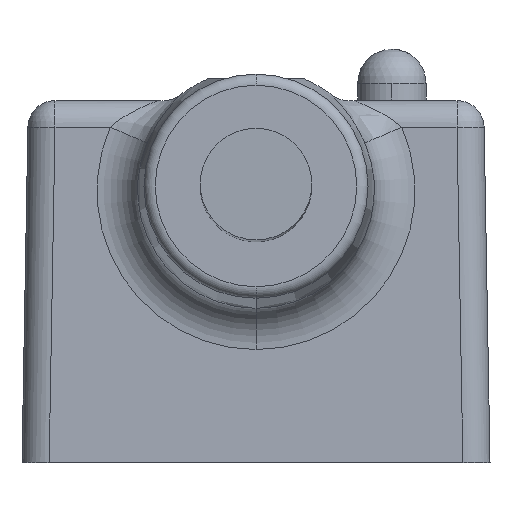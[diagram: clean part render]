
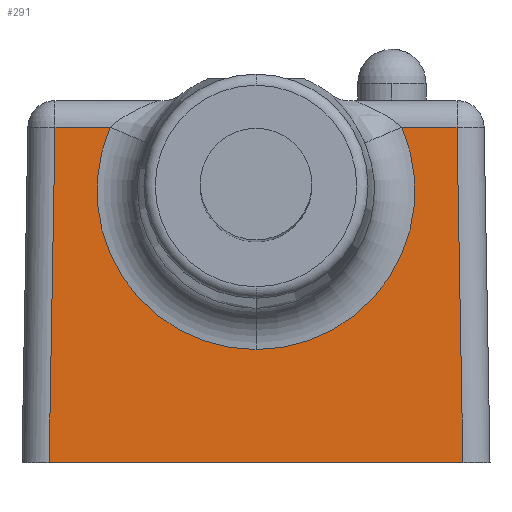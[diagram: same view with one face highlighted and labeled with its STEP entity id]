
A CAD part, top view. The second image highlights one B-rep face of the part: STEP entity #291.
In plain terms, the highlighted planar face has unit normal (0, 0.018, 1).
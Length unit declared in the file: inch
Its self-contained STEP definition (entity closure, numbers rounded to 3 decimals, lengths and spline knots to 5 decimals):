
#228 = VERTEX_POINT ( 'NONE', #3793 ) ;
#281 = EDGE_CURVE ( 'NONE', #364, #362, #3870, .T. ) ;
#284 = ORIENTED_EDGE ( 'NONE', *, *, #285, .T. ) ;
#285 = EDGE_CURVE ( 'NONE', #362, #356, #3918, .T. ) ;
#291 = ADVANCED_FACE ( 'NONE', ( #3866 ), #3919, .T. ) ;
#292 = ORIENTED_EDGE ( 'NONE', *, *, #293, .T. ) ;
#293 = EDGE_CURVE ( 'NONE', #228, #8942, #3895, .T. ) ;
#303 = EDGE_LOOP ( 'NONE', ( #292, #354, #358, #367, #366, #284, #344 ) ) ;
#342 = EDGE_CURVE ( 'NONE', #356, #228, #4039, .T. ) ;
#344 = ORIENTED_EDGE ( 'NONE', *, *, #342, .T. ) ;
#354 = ORIENTED_EDGE ( 'NONE', *, *, #8945, .T. ) ;
#355 = VERTEX_POINT ( 'NONE', #4012 ) ;
#356 = VERTEX_POINT ( 'NONE', #4082 ) ;
#358 = ORIENTED_EDGE ( 'NONE', *, *, #361, .T. ) ;
#359 = EDGE_CURVE ( 'NONE', #355, #364, #4066, .T. ) ;
#361 = EDGE_CURVE ( 'NONE', #8982, #355, #4081, .T. ) ;
#362 = VERTEX_POINT ( 'NONE', #4074 ) ;
#364 = VERTEX_POINT ( 'NONE', #4073 ) ;
#366 = ORIENTED_EDGE ( 'NONE', *, *, #281, .T. ) ;
#367 = ORIENTED_EDGE ( 'NONE', *, *, #359, .T. ) ;
#3793 = CARTESIAN_POINT ( 'NONE',  ( 1.00106, 0.77059, -0.01345 ) ) ;
#3862 = DIRECTION ( 'NONE',  ( 0., 0.017, 1. ) ) ;
#3863 = CARTESIAN_POINT ( 'NONE',  ( 0., 0., 0. ) ) ;
#3864 = AXIS2_PLACEMENT_3D ( 'NONE', #3863, #3862, #3955 ) ;
#3866 = FACE_OUTER_BOUND ( 'NONE', #303, .T. ) ;
#3867 = DIRECTION ( 'NONE',  ( -0.017, -1., 0.017 ) ) ;
#3868 = VECTOR ( 'NONE', #3867, 39.37008 ) ;
#3869 = CARTESIAN_POINT ( 'NONE',  ( 0.06247, -0.00109, 0.00002 ) ) ;
#3870 = LINE ( 'NONE', #3869, #3868 ) ;
#3894 = CARTESIAN_POINT ( 'NONE',  ( 0., 0.77059, -0.01345 ) ) ;
#3895 = LINE ( 'NONE', #3894, #3949 ) ;
#3915 = DIRECTION ( 'NONE',  ( 1., 0., 0. ) ) ;
#3916 = VECTOR ( 'NONE', #3915, 39.37008 ) ;
#3917 = CARTESIAN_POINT ( 'NONE',  ( 0., 0., 0. ) ) ;
#3918 = LINE ( 'NONE', #3917, #3916 ) ;
#3919 = PLANE ( 'NONE',  #3864 ) ;
#3948 = DIRECTION ( 'NONE',  ( -1., 0., 0. ) ) ;
#3949 = VECTOR ( 'NONE', #3948, 39.37008 ) ;
#3955 = DIRECTION ( 'NONE',  ( 0., -1., 0.017 ) ) ;
#4012 = CARTESIAN_POINT ( 'NONE',  ( 0.20286, 0.77059, -0.01345 ) ) ;
#4016 = DIRECTION ( 'NONE',  ( -0.017, 1., -0.017 ) ) ;
#4024 = VECTOR ( 'NONE', #4016, 39.37008 ) ;
#4025 = CARTESIAN_POINT ( 'NONE',  ( 1.0142, 0.0177, -0.00031 ) ) ;
#4026 = AXIS2_PLACEMENT_3D ( 'NONE', #4072, #4071, #4070 ) ;
#4039 = LINE ( 'NONE', #4025, #4024 ) ;
#4066 = LINE ( 'NONE', #4078, #4077 ) ;
#4070 = DIRECTION ( 'NONE',  ( 0., -1., 0.017 ) ) ;
#4071 = DIRECTION ( 'NONE',  ( 0., -0.017, -1. ) ) ;
#4072 = CARTESIAN_POINT ( 'NONE',  ( 0.5385, 0.6249, -0.01091 ) ) ;
#4073 = CARTESIAN_POINT ( 'NONE',  ( 0.07594, 0.77059, -0.01345 ) ) ;
#4074 = CARTESIAN_POINT ( 'NONE',  ( 0.06249, 0., 0. ) ) ;
#4076 = DIRECTION ( 'NONE',  ( -1., 0., 0. ) ) ;
#4077 = VECTOR ( 'NONE', #4076, 39.37008 ) ;
#4078 = CARTESIAN_POINT ( 'NONE',  ( 0., 0.77059, -0.01345 ) ) ;
#4081 = CIRCLE ( 'NONE', #4026, 0.36591 ) ;
#4082 = CARTESIAN_POINT ( 'NONE',  ( 1.01451, 0., 0. ) ) ;
#8942 = VERTEX_POINT ( 'NONE', #14917 ) ;
#8945 = EDGE_CURVE ( 'NONE', #8942, #8982, #14879, .T. ) ;
#8982 = VERTEX_POINT ( 'NONE', #14944 ) ;
#14879 = CIRCLE ( 'NONE', #14958, 0.36591 ) ;
#14908 = CARTESIAN_POINT ( 'NONE',  ( 0.5385, 0.6249, -0.01091 ) ) ;
#14917 = CARTESIAN_POINT ( 'NONE',  ( 0.87414, 0.77059, -0.01345 ) ) ;
#14944 = CARTESIAN_POINT ( 'NONE',  ( 0.5385, 0.25905, -0.00452 ) ) ;
#14953 = DIRECTION ( 'NONE',  ( 0., -1., 0.017 ) ) ;
#14954 = DIRECTION ( 'NONE',  ( 0., -0.017, -1. ) ) ;
#14958 = AXIS2_PLACEMENT_3D ( 'NONE', #14908, #14954, #14953 ) ;
